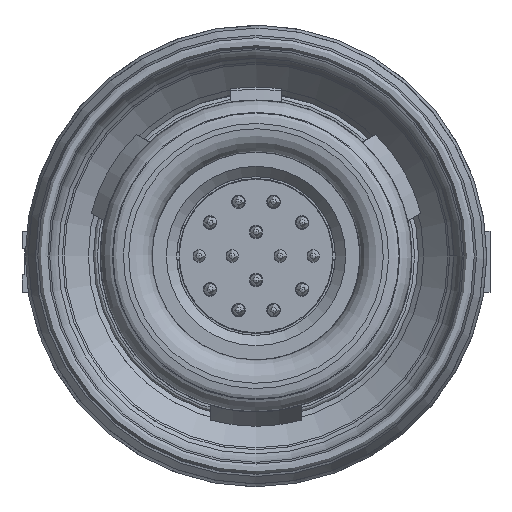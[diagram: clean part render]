
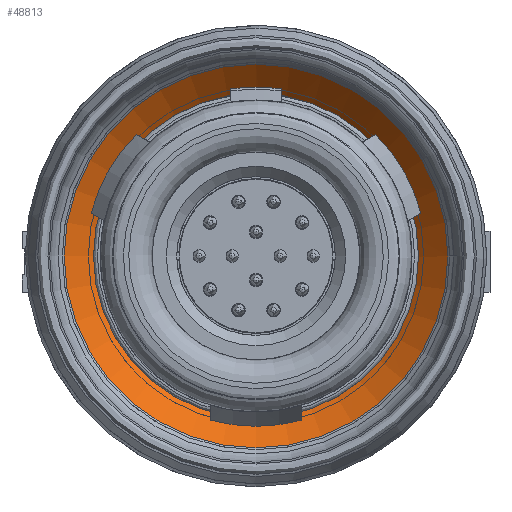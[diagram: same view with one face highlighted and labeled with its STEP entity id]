
A CAD part, left-side view. The second image highlights one B-rep face of the part: STEP entity #48813.
In plain terms, the highlighted conical face has half-angle 45 degrees and reference radius 6.604 mm.
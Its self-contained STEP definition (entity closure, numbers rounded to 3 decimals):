
#2034=CONICAL_SURFACE('',#53241,6.604,0.785);
#4648=FACE_OUTER_BOUND('',#7436,.T.);
#7436=EDGE_LOOP('',(#36042,#36043,#36044,#36045,#36046,#36047,#36048));
#10216=LINE('',#81518,#14348);
#14348=VECTOR('',#60638,6.604);
#18661=CIRCLE('',#53239,7.379);
#18662=CIRCLE('',#53240,7.379);
#18663=CIRCLE('',#53242,5.829);
#18664=CIRCLE('',#53243,5.829);
#18665=CIRCLE('',#53244,5.829);
#21020=VERTEX_POINT('',#81506);
#21021=VERTEX_POINT('',#81508);
#21022=VERTEX_POINT('',#81512);
#21023=VERTEX_POINT('',#81513);
#21024=VERTEX_POINT('',#81515);
#26495=EDGE_CURVE('',#21020,#21021,#18661,.T.);
#26496=EDGE_CURVE('',#21021,#21020,#18662,.T.);
#26497=EDGE_CURVE('',#21022,#21023,#18663,.T.);
#26498=EDGE_CURVE('',#21024,#21022,#18664,.T.);
#26499=EDGE_CURVE('',#21023,#21024,#18665,.T.);
#26500=EDGE_CURVE('',#21023,#21021,#10216,.T.);
#36042=ORIENTED_EDGE('',*,*,#26497,.F.);
#36043=ORIENTED_EDGE('',*,*,#26498,.F.);
#36044=ORIENTED_EDGE('',*,*,#26499,.F.);
#36045=ORIENTED_EDGE('',*,*,#26500,.T.);
#36046=ORIENTED_EDGE('',*,*,#26495,.F.);
#36047=ORIENTED_EDGE('',*,*,#26496,.F.);
#36048=ORIENTED_EDGE('',*,*,#26500,.F.);
#48813=ADVANCED_FACE('',(#4648),#2034,.F.);
#53239=AXIS2_PLACEMENT_3D('',#81509,#60626,#60627);
#53240=AXIS2_PLACEMENT_3D('',#81510,#60628,#60629);
#53241=AXIS2_PLACEMENT_3D('',#81511,#60630,#60631);
#53242=AXIS2_PLACEMENT_3D('',#81514,#60632,#60633);
#53243=AXIS2_PLACEMENT_3D('',#81516,#60634,#60635);
#53244=AXIS2_PLACEMENT_3D('',#81517,#60636,#60637);
#60626=DIRECTION('center_axis',(1.,0.,0.));
#60627=DIRECTION('ref_axis',(0.,0.,-1.));
#60628=DIRECTION('center_axis',(1.,0.,0.));
#60629=DIRECTION('ref_axis',(0.,0.,-1.));
#60630=DIRECTION('center_axis',(-1.,0.,0.));
#60631=DIRECTION('ref_axis',(0.,0.,-1.));
#60632=DIRECTION('center_axis',(-1.,0.,0.));
#60633=DIRECTION('ref_axis',(0.,0.,1.));
#60634=DIRECTION('center_axis',(-1.,0.,0.));
#60635=DIRECTION('ref_axis',(0.,0.,1.));
#60636=DIRECTION('center_axis',(-1.,0.,0.));
#60637=DIRECTION('ref_axis',(0.,0.,1.));
#60638=DIRECTION('',(-0.707,0.,0.707));
#81506=CARTESIAN_POINT('',(1.621,0.,-7.379));
#81508=CARTESIAN_POINT('',(1.621,0.,7.379));
#81509=CARTESIAN_POINT('Origin',(1.621,0.,0.));
#81510=CARTESIAN_POINT('Origin',(1.621,0.,0.));
#81511=CARTESIAN_POINT('Origin',(2.396,0.,0.));
#81512=CARTESIAN_POINT('',(3.171,0.,-5.829));
#81513=CARTESIAN_POINT('',(3.171,0.,5.829));
#81514=CARTESIAN_POINT('Origin',(3.171,0.,0.));
#81515=CARTESIAN_POINT('',(3.171,0.149,-5.827));
#81516=CARTESIAN_POINT('Origin',(3.171,0.,0.));
#81517=CARTESIAN_POINT('Origin',(3.171,0.,0.));
#81518=CARTESIAN_POINT('',(2.396,0.,6.604));
